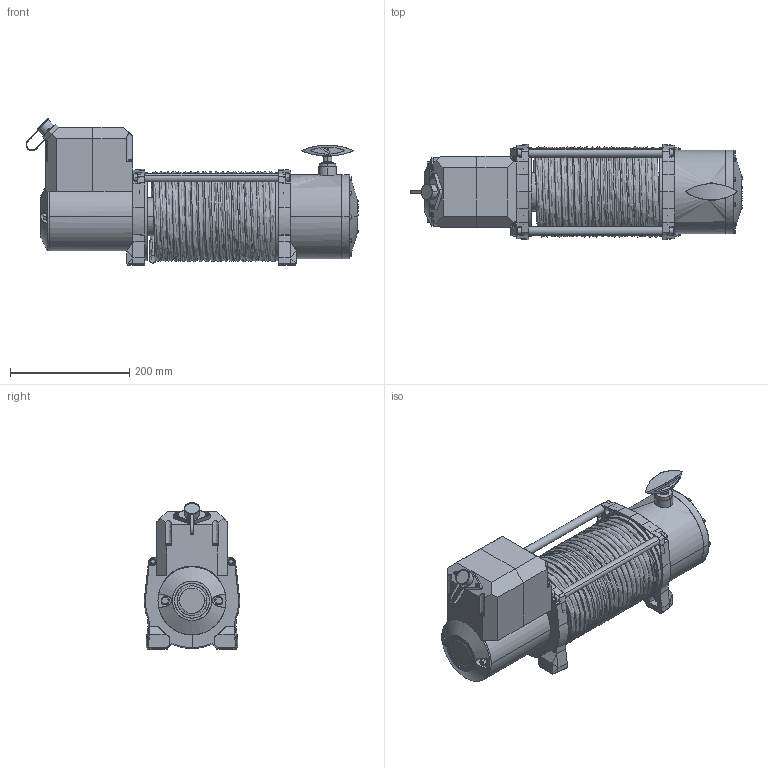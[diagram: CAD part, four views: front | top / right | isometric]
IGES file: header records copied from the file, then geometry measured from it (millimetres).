
Global section: file name: G:\PROJEKTY\DRAGON\MODELE zewn; native system: Rhinoceros ( Apr  1 2010 ); preprocessor: Trout Lake IGES 012 Apr  1 2010; date: 181118.220215; units: millimetre
Bounding box: 555.89 x 159.79 x 245.52 mm (x, y, z)
Surface area: 896689.8 mm2 (no closed solid volume)
Topology: 0 solids, 0 shells, 924 faces, 13523 edges, 13381 vertices
Faces by surface type: bspline 924
